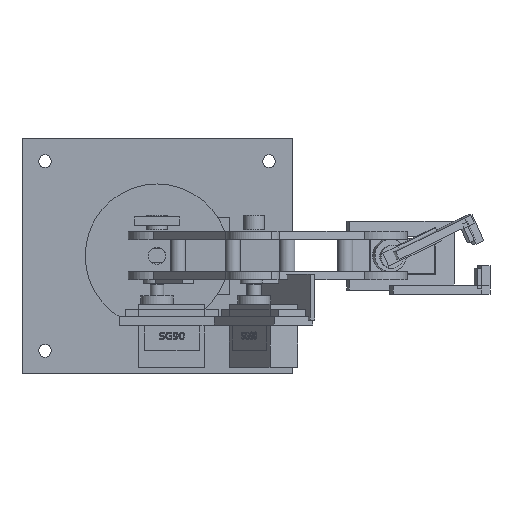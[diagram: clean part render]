
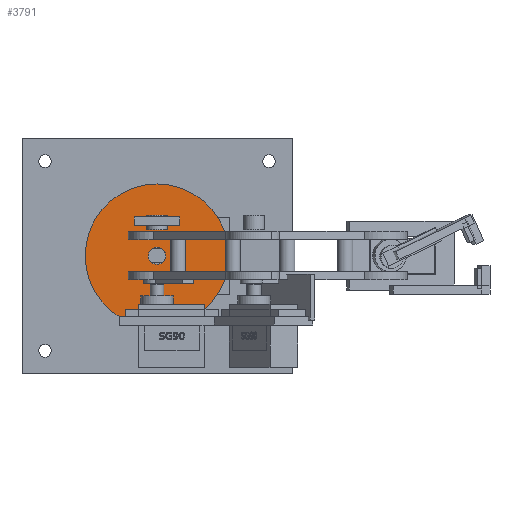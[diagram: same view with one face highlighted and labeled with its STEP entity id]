
A CAD part, top view. The second image highlights one B-rep face of the part: STEP entity #3791.
In plain terms, the highlighted planar face has unit normal (0, 0, 1).
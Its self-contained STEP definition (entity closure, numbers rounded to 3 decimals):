
#3671 = VERTEX_POINT('',#3672);
#3672 = CARTESIAN_POINT('',(25.,0.,43.));
#3679 = CYLINDRICAL_SURFACE('',#3680,25.);
#3680 = AXIS2_PLACEMENT_3D('',#3681,#3682,#3683);
#3681 = CARTESIAN_POINT('',(0.,0.,40.));
#3682 = DIRECTION('',(-0.,-0.,-1.));
#3683 = DIRECTION('',(1.,0.,0.));
#3698 = EDGE_CURVE('',#3671,#3671,#3699,.T.);
#3699 = SURFACE_CURVE('',#3700,(#3705,#3712),.PCURVE_S1.);
#3700 = CIRCLE('',#3701,25.);
#3701 = AXIS2_PLACEMENT_3D('',#3702,#3703,#3704);
#3702 = CARTESIAN_POINT('',(0.,0.,43.));
#3703 = DIRECTION('',(0.,0.,1.));
#3704 = DIRECTION('',(1.,0.,0.));
#3705 = PCURVE('',#3679,#3706);
#3706 = DEFINITIONAL_REPRESENTATION('',(#3707),#3711);
#3707 = LINE('',#3708,#3709);
#3708 = CARTESIAN_POINT('',(-0.,-3.));
#3709 = VECTOR('',#3710,1.);
#3710 = DIRECTION('',(-1.,0.));
#3711 = ( GEOMETRIC_REPRESENTATION_CONTEXT(2) 
PARAMETRIC_REPRESENTATION_CONTEXT() REPRESENTATION_CONTEXT('2D SPACE',''
  ) );
#3712 = PCURVE('',#3713,#3718);
#3713 = PLANE('',#3714);
#3714 = AXIS2_PLACEMENT_3D('',#3715,#3716,#3717);
#3715 = CARTESIAN_POINT('',(0.,0.,43.)
  );
#3716 = DIRECTION('',(0.,0.,1.));
#3717 = DIRECTION('',(1.,0.,0.));
#3718 = DEFINITIONAL_REPRESENTATION('',(#3719),#3723);
#3719 = CIRCLE('',#3720,25.);
#3720 = AXIS2_PLACEMENT_2D('',#3721,#3722);
#3721 = CARTESIAN_POINT('',(0.,0.));
#3722 = DIRECTION('',(1.,0.));
#3723 = ( GEOMETRIC_REPRESENTATION_CONTEXT(2) 
PARAMETRIC_REPRESENTATION_CONTEXT() REPRESENTATION_CONTEXT('2D SPACE',''
  ) );
#3780 = CYLINDRICAL_SURFACE('',#3781,3.);
#3781 = AXIS2_PLACEMENT_3D('',#3782,#3783,#3784);
#3782 = CARTESIAN_POINT('',(0.,0.,39.));
#3783 = DIRECTION('',(-0.,-0.,-1.));
#3784 = DIRECTION('',(1.,0.,0.));
#3791 = ADVANCED_FACE('',(#3792,#3795),#3713,.T.);
#3792 = FACE_BOUND('',#3793,.T.);
#3793 = EDGE_LOOP('',(#3794));
#3794 = ORIENTED_EDGE('',*,*,#3698,.T.);
#3795 = FACE_BOUND('',#3796,.T.);
#3796 = EDGE_LOOP('',(#3797));
#3797 = ORIENTED_EDGE('',*,*,#3798,.T.);
#3798 = EDGE_CURVE('',#3799,#3799,#3801,.T.);
#3799 = VERTEX_POINT('',#3800);
#3800 = CARTESIAN_POINT('',(3.,0.,43.));
#3801 = SURFACE_CURVE('',#3802,(#3807,#3818),.PCURVE_S1.);
#3802 = CIRCLE('',#3803,3.);
#3803 = AXIS2_PLACEMENT_3D('',#3804,#3805,#3806);
#3804 = CARTESIAN_POINT('',(0.,0.,43.));
#3805 = DIRECTION('',(0.,0.,-1.));
#3806 = DIRECTION('',(1.,0.,0.));
#3807 = PCURVE('',#3713,#3808);
#3808 = DEFINITIONAL_REPRESENTATION('',(#3809),#3817);
#3809 = ( BOUNDED_CURVE() B_SPLINE_CURVE(2,(#3810,#3811,#3812,#3813,
#3814,#3815,#3816),.UNSPECIFIED.,.T.,.F.) B_SPLINE_CURVE_WITH_KNOTS((1,2
    ,2,2,2,1),(-2.094,0.,2.094,4.189,
6.283,8.378),.UNSPECIFIED.) CURVE() 
GEOMETRIC_REPRESENTATION_ITEM() RATIONAL_B_SPLINE_CURVE((1.,0.5,1.,0.5,
1.,0.5,1.)) REPRESENTATION_ITEM('') );
#3810 = CARTESIAN_POINT('',(3.,0.));
#3811 = CARTESIAN_POINT('',(3.,-5.196));
#3812 = CARTESIAN_POINT('',(-1.5,-2.598));
#3813 = CARTESIAN_POINT('',(-6.,0.));
#3814 = CARTESIAN_POINT('',(-1.5,2.598));
#3815 = CARTESIAN_POINT('',(3.,5.196));
#3816 = CARTESIAN_POINT('',(3.,0.));
#3817 = ( GEOMETRIC_REPRESENTATION_CONTEXT(2) 
PARAMETRIC_REPRESENTATION_CONTEXT() REPRESENTATION_CONTEXT('2D SPACE',''
  ) );
#3818 = PCURVE('',#3780,#3819);
#3819 = DEFINITIONAL_REPRESENTATION('',(#3820),#3824);
#3820 = LINE('',#3821,#3822);
#3821 = CARTESIAN_POINT('',(-6.283,-4.));
#3822 = VECTOR('',#3823,1.);
#3823 = DIRECTION('',(1.,-0.));
#3824 = ( GEOMETRIC_REPRESENTATION_CONTEXT(2) 
PARAMETRIC_REPRESENTATION_CONTEXT() REPRESENTATION_CONTEXT('2D SPACE',''
  ) );
